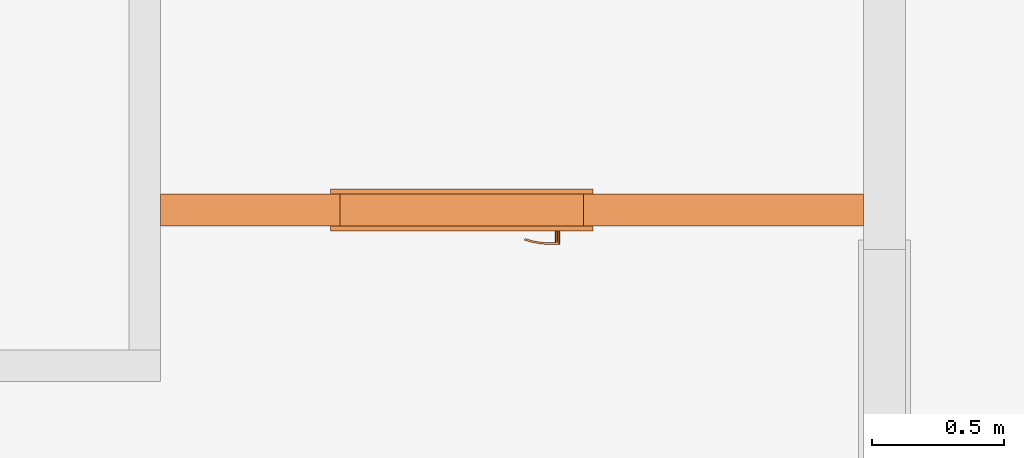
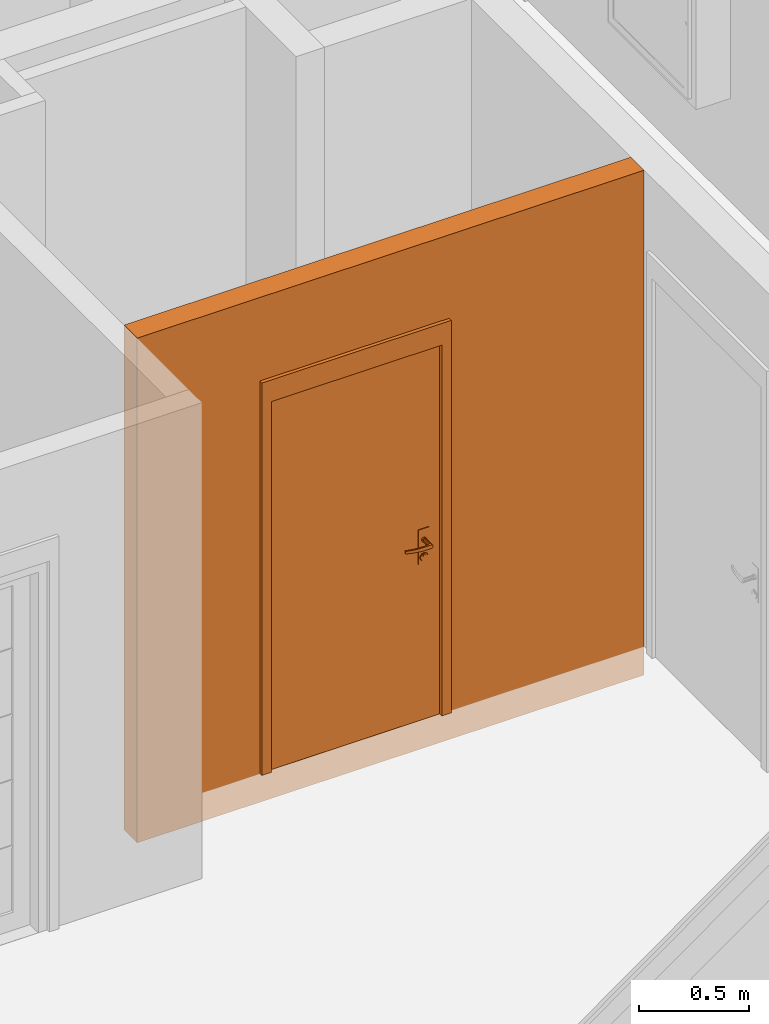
# One storey, part 28 of 64: 2 proxies, 1 opening.
"""IFC2X3 building model written with IfcOpenShell, lengths in millimetres."""

from ifc_helpers import new_model, entity, si_unit, converted_unit, derived_unit, money_unit, direction, frame, origin_with_axes, origin_2d_with_axis, place, context, subcontext, project, spatial, rectangle, extrude, open_shell, faceted_brep, surface_model, source, transform, mapped, material, type_object, element, fill, save


model = new_model("IFC2X3")

# Units and contexts
model_context = context("Model", 3, precision=0.01, world=origin_with_axes(), true_north=direction((0.34421633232, 0.938890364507)))
body_context = subcontext(model_context, "Body", "Model", "MODEL_VIEW")
ifc_project = project(units=[si_unit("LENGTHUNIT", "METRE", prefix="MILLI"), si_unit("AREAUNIT", "SQUARE_METRE"), si_unit("VOLUMEUNIT", "CUBIC_METRE"), converted_unit("PLANEANGLEUNIT", "DEGREE", entity("IfcPlaneAngleMeasure", 0.0174532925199), si_unit("PLANEANGLEUNIT", "RADIAN"), dimensions=[0, 0, 0, 0, 0, 0, 0]), si_unit("SOLIDANGLEUNIT", "STERADIAN"), money_unit("USD"), converted_unit("TIMEUNIT", "Year", entity("IfcTimeMeasure", 31556926.0), si_unit("TIMEUNIT", "SECOND"), dimensions=[0, 0, 1, 0, 0, 0, 0]), si_unit("MASSUNIT", "GRAM", prefix="KILO"), si_unit("THERMODYNAMICTEMPERATUREUNIT", "DEGREE_CELSIUS"), si_unit("LUMINOUSINTENSITYUNIT", "LUMEN"), si_unit("ENERGYUNIT", "JOULE", prefix="MEGA"), derived_unit("THERMALCONDUCTANCEUNIT", [(si_unit("POWERUNIT", "WATT"), 1), (si_unit("LENGTHUNIT", "METRE"), -1), (si_unit("THERMODYNAMICTEMPERATUREUNIT", "KELVIN"), -1)]), derived_unit("SPECIFICHEATCAPACITYUNIT", [(si_unit("ENERGYUNIT", "JOULE"), 1), (si_unit("MASSUNIT", "GRAM", prefix="KILO"), -1), (si_unit("THERMODYNAMICTEMPERATUREUNIT", "KELVIN"), -1)]), derived_unit("MASSDENSITYUNIT", [(si_unit("MASSUNIT", "GRAM", prefix="KILO"), 1), (si_unit("VOLUMEUNIT", "CUBIC_METRE"), -1)])], contexts=[model_context])

# Site, building, storey
site_placement = place(None, origin_with_axes())
site = spatial("IfcSite", under=ifc_project, at=site_placement, Name="USTRONIE MORSKIE", CompositionType="ELEMENT")
building_placement = place(site_placement, origin_with_axes())
building = spatial("IfcBuilding", under=site, at=building_placement, Name="Budynek", CompositionType="ELEMENT")
storey_placement = place(building_placement, frame((0.0, 0.0, 7000.0), z_axis=(0.0, 0.0, 1.0), x_axis=(1.0, 0.0, 0.0)))
storey = spatial("IfcBuildingStorey", under=building, at=storey_placement, Name="PIĘTRO 2", CompositionType="ELEMENT", Elevation=7000.0)

# Proxies, opening
ifc_material = material(Name="Bloczki silikatowe")
building_element_proxy_type_1 = type_object("IfcBuildingElementProxyType", Name="Bloczki silikatowe 120", PredefinedType="NOTDEFINED")
proxy_1_placement = place(storey_placement, frame((413217.920919, 724641.179437, -160.0), z_axis=(0.0, 0.0, 1.0), x_axis=(1.0, 0.0, 0.0)))
proxy_1 = element("IfcBuildingElementProxy", 1, at=proxy_1_placement, inside=storey, type_object=building_element_proxy_type_1, material=ifc_material, Name="SW-04", context=body_context, shape_type="Brep", body=[
    faceted_brep([(2720.0, -59.9999999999, 2800.0), (2720.0, 59.9999999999, 2800.0), (60.0, 59.9999999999, 2800.0), (60.0, -59.9999999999, 2800.0), (2720.0, -59.9999999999, 0.0), (2720.0, 59.9999999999, 0.0), (60.0, 59.9999999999, 0.0), (60.0, -59.9999999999, 0.0)], [[[0, 1, 2, 3]], [[1, 0, 4, 5]], [[1, 5, 6, 2]], [[7, 3, 2, 6]], [[4, 0, 3, 7]], [[5, 4, 7, 6]]]),
])
opening_placement = place(proxy_1_placement, frame((1200.0, -1.13686837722e-10, 160.0), z_axis=(0.0, 0.0, 1.0), x_axis=(1.0, 0.0, 0.0)))
opening = element("IfcOpeningElement", 2, at=opening_placement, cuts=proxy_1, Name="Dw.4", context=body_context, shape_type="SweptSolid", body=[
    extrude(rectangle(XDim=920.0, YDim=2070.0, at=origin_2d_with_axis()), frame((0.0, 120.0, 1035.0), z_axis=(0.0, -1.0, 0.0), x_axis=(-1.0, 0.0, 0.0)), (0.0, 0.0, 1.0), 360.0),
    extrude(rectangle(XDim=994.0, YDim=2177.0, at=origin_2d_with_axis()), frame((0.0, 60.0000000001, 1088.5), z_axis=(0.0, -1.0, 0.0), x_axis=(-1.0, 0.0, 0.0)), (0.0, 0.0, -1.0), 120.0),
    extrude(rectangle(XDim=994.0, YDim=2177.0, at=origin_2d_with_axis()), frame((0.0, -59.9999999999, 1088.5), z_axis=(0.0, 1.0, 0.0), x_axis=(-1.0, 0.0, 0.0)), (0.0, 0.0, -1.0), 120.0),
])
building_element_proxy_type_2 = type_object("IfcBuildingElementProxyType", Name="Drzwi 23", PredefinedType="NOTDEFINED")
shared_shape = source(origin_with_axes(), body_context, "Body", "SurfaceModel", [
    faceted_brep([(-460.0, -115.0, 0.0), (-435.0, -115.0, 0.0), (-435.0, -120.0, 0.0), (-460.0, -120.0, 0.0), (-460.0, -115.0, 2070.0), (-435.0, -115.0, 2045.0), (-435.0, -120.0, 2045.0), (-460.0, -120.0, 2070.0)], [[[0, 1, 2, 3]], [[0, 4, 5, 1]], [[1, 5, 6, 2]], [[3, 2, 6, 7]], [[4, 0, 3, 7]], [[5, 4, 7, 6]]]),
    faceted_brep([(460.0, -115.0, 2070.0), (435.0, -115.0, 2045.0), (435.0, -120.0, 2045.0), (460.0, -120.0, 2070.0), (460.0, -115.0, 0.0), (435.0, -115.0, 0.0), (435.0, -120.0, 0.0), (460.0, -120.0, 0.0)], [[[0, 1, 2, 3]], [[0, 4, 5, 1]], [[1, 5, 6, 2]], [[3, 2, 6, 7]], [[4, 0, 3, 7]], [[5, 4, 7, 6]]]),
    faceted_brep([(-435.0, -115.0, 2045.0), (435.0, -115.0, 2045.0), (435.0, -120.0, 2045.0), (-435.0, -120.0, 2045.0), (-460.0, -115.0, 2070.0), (460.0, -115.0, 2070.0), (460.0, -120.0, 2070.0), (-460.0, -120.0, 2070.0)], [[[0, 1, 2, 3]], [[0, 4, 5, 1]], [[1, 5, 6, 2]], [[3, 2, 6, 7]], [[4, 0, 3, 7]], [[5, 4, 7, 6]]]),
    faceted_brep([(-497.0, -139.0, 0.0), (-497.0, -120.0, 0.0), (-447.0, -120.0, 0.0), (-447.0, -139.0, 0.0), (-497.0, -139.0, 2177.0), (-497.0, -120.0, 2177.0), (-447.0, -120.0, 2057.0), (-447.0, -139.0, 2057.0)], [[[0, 1, 2, 3]], [[4, 5, 1, 0]], [[1, 5, 6, 2]], [[3, 2, 6, 7]], [[0, 3, 7, 4]], [[7, 6, 5, 4]]]),
    faceted_brep([(497.0, -139.0, 2177.0), (497.0, -120.0, 2177.0), (447.0, -120.0, 2057.0), (447.0, -139.0, 2057.0), (497.0, -139.0, 0.0), (497.0, -120.0, 0.0), (447.0, -120.0, 0.0), (447.0, -139.0, 0.0)], [[[0, 1, 2, 3]], [[4, 5, 1, 0]], [[1, 5, 6, 2]], [[3, 2, 6, 7]], [[0, 3, 7, 4]], [[7, 6, 5, 4]]]),
    faceted_brep([(-497.0, -139.0, 2177.0), (-497.0, -120.0, 2177.0), (-447.0, -120.0, 2057.0), (-447.0, -139.0, 2057.0), (497.0, -139.0, 2177.0), (497.0, -120.0, 2177.0), (447.0, -120.0, 2057.0), (447.0, -139.0, 2057.0)], [[[0, 1, 2, 3]], [[4, 5, 1, 0]], [[1, 5, 6, 2]], [[3, 2, 6, 7]], [[0, 3, 7, 4]], [[7, 6, 5, 4]]]),
    faceted_brep([(-497.0, 19.0, 0.0), (-447.0, 19.0, 0.0), (-447.0, 0.0, 0.0), (-497.0, 0.0, 0.0), (-497.0, 19.0, 2177.0), (-447.0, 19.0, 2057.0), (-447.0, 0.0, 2057.0), (-497.0, 0.0, 2177.0)], [[[0, 1, 2, 3]], [[0, 4, 5, 1]], [[1, 5, 6, 2]], [[3, 2, 6, 7]], [[4, 0, 3, 7]], [[5, 4, 7, 6]]]),
    faceted_brep([(497.0, 19.0, 2177.0), (447.0, 19.0, 2057.0), (447.0, 0.0, 2057.0), (497.0, 0.0, 2177.0), (497.0, 19.0, 0.0), (447.0, 19.0, 0.0), (447.0, 0.0, 0.0), (497.0, 0.0, 0.0)], [[[0, 1, 2, 3]], [[0, 4, 5, 1]], [[1, 5, 6, 2]], [[3, 2, 6, 7]], [[4, 0, 3, 7]], [[5, 4, 7, 6]]]),
    faceted_brep([(-497.0, 19.0, 2177.0), (-447.0, 19.0, 2057.0), (-447.0, 0.0, 2057.0), (-497.0, 0.0, 2177.0), (497.0, 19.0, 2177.0), (447.0, 19.0, 2057.0), (447.0, 0.0, 2057.0), (497.0, 0.0, 2177.0)], [[[0, 1, 2, 3]], [[0, 4, 5, 1]], [[1, 5, 6, 2]], [[3, 2, 6, 7]], [[4, 0, 3, 7]], [[5, 4, 7, 6]]]),
    faceted_brep([(-400.0, -40.0, 0.0), (-400.0, -40.0, 2000.0), (-400.0, -115.0, 2000.0), (-400.0, -115.0, 0.0), (-412.0, -40.0, 2000.0), (-412.0, -40.0, 0.0), (-412.0, 0.0, 2000.0), (-460.0, 0.0, 2000.0), (-460.0, -115.0, 2000.0), (-460.0, -115.0, 0.0), (-460.0, 0.0, 0.0), (-412.0, 0.0, 0.0)], [[[0, 1, 2, 3]], [[4, 1, 0, 5]], [[4, 6, 7, 8, 2, 1]], [[3, 2, 8, 9]], [[5, 0, 3, 9, 10, 11]], [[6, 4, 5, 11]], [[6, 11, 10, 7]], [[10, 9, 8, 7]]]),
    faceted_brep([(412.0, -40.0, 2000.0), (400.0, -40.0, 2000.0), (400.0, -115.0, 2000.0), (460.0, -115.0, 2000.0), (460.0, 0.0, 2000.0), (412.0, 0.0, 2000.0), (412.0, -40.0, 0.0), (400.0, -40.0, 0.0), (400.0, -115.0, 0.0), (460.0, -115.0, 0.0), (460.0, 0.0, 0.0), (412.0, 0.0, 0.0)], [[[0, 1, 2, 3, 4, 5]], [[1, 0, 6, 7]], [[1, 7, 8, 2]], [[3, 2, 8, 9]], [[4, 3, 9, 10]], [[11, 5, 4, 10]], [[0, 5, 11, 6]], [[6, 11, 10, 9, 8, 7]]]),
    faceted_brep([(-412.0, 0.0, 2012.0), (-412.0, 0.0, 2000.0), (-460.0, 0.0, 2000.0), (-460.0, 0.0, 2070.0), (460.0, 0.0, 2070.0), (460.0, 0.0, 2000.0), (412.0, 0.0, 2000.0), (412.0, 0.0, 2012.0), (-412.0, -40.0, 2012.0), (-412.0, -40.0, 2000.0), (-400.0, -40.0, 2000.0), (-400.0, -115.0, 2000.0), (-460.0, -115.0, 2000.0), (-460.0, -115.0, 2070.0), (460.0, -115.0, 2070.0), (460.0, -115.0, 2000.0), (412.0, -40.0, 2000.0), (400.0, -115.0, 2000.0), (400.0, -40.0, 2000.0), (412.0, -40.0, 2012.0)], [[[0, 1, 2, 3, 4, 5, 6, 7]], [[1, 0, 8, 9]], [[9, 10, 11, 12, 2, 1]], [[2, 12, 13, 3]], [[3, 13, 14, 4]], [[4, 14, 15, 5]], [[16, 6, 5, 15, 17, 18]], [[7, 6, 16, 19]], [[0, 7, 19, 8]], [[16, 18, 10, 9, 8, 19]], [[10, 18, 17, 11]], [[17, 15, 14, 13, 12, 11]]]),
    faceted_brep([(-390.5, -40.0, 1060.0), (-390.5, -43.0, 1060.0), (-333.5, -43.0, 1060.0), (-333.5, -40.0, 1060.0), (-390.5, -40.0, 870.0), (-390.5, -43.0, 870.0), (-333.5, -43.0, 870.0), (-333.5, -40.0, 870.0)], [[[0, 1, 2, 3]], [[4, 5, 1, 0]], [[1, 5, 6, 2]], [[3, 2, 6, 7]], [[0, 3, 7, 4]], [[7, 6, 5, 4]]]),
    faceted_brep([(-362.0, -104.0, 990.0), (-362.0, -111.0, 990.0), (-367.0, -111.0, 991.339745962), (-367.0, -104.0, 991.339745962), (-337.0, -104.0, 990.0), (-337.0, -111.0, 990.0), (-337.0, -111.0, 1010.0), (-362.0, -111.0, 1010.0), (-367.0, -111.0, 1008.66025404), (-370.660254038, -111.0, 1005.0), (-372.0, -111.0, 1000.0), (-370.660254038, -111.0, 995.0), (-370.660254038, -104.0, 995.0), (-372.0, -104.0, 1000.0), (-370.660254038, -104.0, 1005.0), (-367.0, -104.0, 1008.66025404), (-362.0, -104.0, 1010.0), (-337.0, -104.0, 1010.0)], [[[0, 1, 2, 3]], [[4, 5, 1, 0]], [[1, 5, 6, 7, 8, 9, 10, 11, 2]], [[3, 2, 11, 12]], [[0, 3, 12, 13, 14, 15, 16, 17, 4]], [[17, 6, 5, 4]], [[16, 7, 6, 17]], [[15, 8, 7, 16]], [[14, 9, 8, 15]], [[13, 10, 9, 14]], [[12, 11, 10, 13]]]),
    surface_model("IfcShellBasedSurfaceModel", [(-337.0, -104.0, 1010.0), (-323.596090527, -111.0, 1009.60730092), (-323.901717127, -104.0, 1009.60730092), (-337.0, -111.0, 1010.0), (-296.890283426, -108.663544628, 1008.82190275), (-323.901717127, -104.0, 990.392699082), (-337.0, -104.0, 990.0), (-337.0, -111.0, 990.0), (-323.596090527, -111.0, 990.392699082), (-296.890283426, -108.663544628, 991.178097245), (-297.804837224, -101.716818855, 1008.82190275), (-297.804837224, -101.716818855, 991.178097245), (-270.489735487, -104.008415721, 991.963495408), (-270.489735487, -104.008415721, 1008.03650459), (-272.006256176, -97.1678329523, 1008.03650459), (-272.006256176, -97.1678329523, 991.963495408), (-244.59537082, -97.0700416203, 992.748893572), (-244.59537082, -97.0700416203, 1007.25110643), (-246.702316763, -90.3876628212, 1007.25110643), (-246.702316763, -90.3876628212, 992.748893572), (-236.538795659, -94.1376880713, 993.0), (-236.538795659, -94.1376880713, 1007.0), (-238.829442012, -87.5221707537, 1007.0), (-238.829442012, -87.5221707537, 993.0)], [open_shell([[[0, 1, 2]], [[0, 3, 1]], [[2, 1, 4]], [[0, 2, 5, 6]], [[3, 7, 8, 1]], [[1, 8, 9, 4]], [[2, 4, 10]], [[2, 10, 11, 5]], [[5, 7, 6]], [[5, 8, 7]], [[11, 9, 8]], [[4, 9, 12, 13]], [[10, 4, 13]], [[10, 14, 15, 11]], [[11, 8, 5]], [[15, 9, 11]], [[15, 12, 9]], [[13, 12, 16, 17]], [[10, 13, 14]], [[14, 18, 19, 15]], [[19, 12, 15]], [[19, 16, 12]], [[17, 16, 20, 21]], [[14, 13, 17]], [[14, 17, 18]], [[18, 22, 23, 19]], [[23, 16, 19]], [[23, 20, 16]], [[22, 21, 20, 23]], [[18, 17, 21]], [[18, 21, 22]]])]),
    faceted_brep([(-351.607695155, -53.0, 994.0), (-350.741669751, -43.0, 993.5), (-349.0, -43.0, 1000.0), (-350.0, -53.0, 1000.0), (-356.0, -53.0, 989.607695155), (-355.5, -43.0, 988.741669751), (-362.0, -43.0, 987.0), (-368.5, -43.0, 988.741669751), (-373.258330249, -43.0, 993.5), (-375.0, -43.0, 1000.0), (-373.258330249, -43.0, 1006.5), (-368.5, -43.0, 1011.25833025), (-362.0, -43.0, 1013.0), (-355.5, -43.0, 1011.25833025), (-350.741669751, -43.0, 1006.5), (-351.607695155, -53.0, 1006.0), (-356.0, -53.0, 1010.39230485), (-362.0, -53.0, 1012.0), (-368.0, -53.0, 1010.39230485), (-372.392304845, -53.0, 1006.0), (-374.0, -53.0, 1000.0), (-372.392304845, -53.0, 994.0), (-368.0, -53.0, 989.607695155), (-362.0, -53.0, 988.0)], [[[0, 1, 2, 3]], [[4, 5, 1, 0]], [[2, 1, 5, 6, 7, 8, 9, 10, 11, 12, 13, 14]], [[3, 2, 14, 15]], [[3, 15, 16, 17, 18, 19, 20, 21, 22, 23, 4, 0]], [[23, 6, 5, 4]], [[22, 7, 6, 23]], [[21, 8, 7, 22]], [[20, 9, 8, 21]], [[19, 10, 9, 20]], [[18, 11, 10, 19]], [[17, 12, 11, 18]], [[16, 13, 12, 17]], [[15, 14, 13, 16]]]),
    faceted_brep([(-344.679491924, -47.0, 895.0), (-342.947441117, -43.0, 894.0), (-340.0, -43.0, 905.0), (-342.0, -47.0, 905.0), (-352.0, -47.0, 887.679491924), (-351.0, -43.0, 885.947441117), (-362.0, -43.0, 883.0), (-373.0, -43.0, 885.947441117), (-381.052558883, -43.0, 894.0), (-384.0, -43.0, 905.0), (-381.052558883, -43.0, 916.0), (-373.0, -43.0, 924.052558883), (-362.0, -43.0, 927.0), (-351.0, -43.0, 924.052558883), (-342.947441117, -43.0, 916.0), (-344.679491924, -47.0, 915.0), (-352.0, -47.0, 922.320508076), (-362.0, -47.0, 925.0), (-372.0, -47.0, 922.320508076), (-379.320508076, -47.0, 915.0), (-382.0, -47.0, 905.0), (-379.320508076, -47.0, 895.0), (-372.0, -47.0, 887.679491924), (-362.0, -47.0, 885.0)], [[[0, 1, 2, 3]], [[4, 5, 1, 0]], [[2, 1, 5, 6, 7, 8, 9, 10, 11, 12, 13, 14]], [[3, 2, 14, 15]], [[3, 15, 16, 17, 18, 19, 20, 21, 22, 23, 4, 0]], [[23, 6, 5, 4]], [[22, 7, 6, 23]], [[21, 8, 7, 22]], [[20, 9, 8, 21]], [[19, 10, 9, 20]], [[18, 11, 10, 19]], [[17, 12, 11, 18]], [[16, 13, 12, 17]], [[15, 14, 13, 16]]]),
    faceted_brep([(-357.050252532, -49.0, 909.050252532), (-356.343145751, -47.0, 908.343145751), (-354.0, -47.0, 914.0), (-355.0, -49.0, 914.0), (-362.0, -49.0, 907.0), (-362.0, -47.0, 906.0), (-367.656854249, -47.0, 908.343145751), (-370.0, -47.0, 914.0), (-367.656854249, -47.0, 919.656854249), (-362.0, -47.0, 922.0), (-356.343145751, -47.0, 919.656854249), (-357.050252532, -49.0, 918.949747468), (-362.0, -49.0, 921.0), (-366.949747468, -49.0, 918.949747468), (-369.0, -49.0, 914.0), (-366.949747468, -49.0, 909.050252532)], [[[0, 1, 2, 3]], [[4, 5, 1, 0]], [[2, 1, 5, 6, 7, 8, 9, 10]], [[3, 2, 10, 11]], [[3, 11, 12, 13, 14, 15, 4, 0]], [[15, 6, 5, 4]], [[14, 7, 6, 15]], [[13, 8, 7, 14]], [[12, 9, 8, 13]], [[11, 10, 9, 12]]]),
    faceted_brep([(-362.0, -53.0, 1010.0), (-362.0, -104.0, 1010.0), (-357.0, -104.0, 1008.66025404), (-357.0, -53.0, 1008.66025404), (-367.0, -53.0, 1008.66025404), (-367.0, -104.0, 1008.66025404), (-370.660254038, -104.0, 1005.0), (-372.0, -104.0, 1000.0), (-370.660254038, -104.0, 995.0), (-367.0, -104.0, 991.339745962), (-362.0, -104.0, 990.0), (-357.0, -104.0, 991.339745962), (-353.339745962, -104.0, 995.0), (-352.0, -104.0, 1000.0), (-353.339745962, -104.0, 1005.0), (-353.339745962, -53.0, 1005.0), (-352.0, -53.0, 1000.0), (-353.339745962, -53.0, 995.0), (-357.0, -53.0, 991.339745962), (-362.0, -53.0, 990.0), (-367.0, -53.0, 991.339745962), (-370.660254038, -53.0, 995.0), (-372.0, -53.0, 1000.0), (-370.660254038, -53.0, 1005.0)], [[[0, 1, 2, 3]], [[4, 5, 1, 0]], [[1, 5, 6, 7, 8, 9, 10, 11, 12, 13, 14, 2]], [[3, 2, 14, 15]], [[0, 3, 15, 16, 17, 18, 19, 20, 21, 22, 23, 4]], [[23, 6, 5, 4]], [[22, 7, 6, 23]], [[21, 8, 7, 22]], [[20, 9, 8, 21]], [[19, 10, 9, 20]], [[18, 11, 10, 19]], [[17, 12, 11, 18]], [[16, 13, 12, 17]], [[15, 14, 13, 16]]]),
    faceted_brep([(-390.5, 0.0, 1060.0), (-333.5, 0.0, 1060.0), (-333.5, 3.0, 1060.0), (-390.5, 3.0, 1060.0), (-390.5, 0.0, 870.0), (-333.5, 0.0, 870.0), (-333.5, 3.0, 870.0), (-390.5, 3.0, 870.0)], [[[0, 1, 2, 3]], [[0, 4, 5, 1]], [[1, 5, 6, 2]], [[3, 2, 6, 7]], [[4, 0, 3, 7]], [[5, 4, 7, 6]]]),
    faceted_brep([(-362.0, 64.0, 990.0), (-367.0, 64.0, 991.339745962), (-367.0, 71.0, 991.339745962), (-362.0, 71.0, 990.0), (-337.0, 64.0, 990.0), (-337.0, 64.0, 1010.0), (-362.0, 64.0, 1010.0), (-367.0, 64.0, 1008.66025404), (-370.660254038, 64.0, 1005.0), (-372.0, 64.0, 1000.0), (-370.660254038, 64.0, 995.0), (-370.660254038, 71.0, 995.0), (-372.0, 71.0, 1000.0), (-370.660254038, 71.0, 1005.0), (-367.0, 71.0, 1008.66025404), (-362.0, 71.0, 1010.0), (-337.0, 71.0, 1010.0), (-337.0, 71.0, 990.0)], [[[0, 1, 2, 3]], [[0, 4, 5, 6, 7, 8, 9, 10, 1]], [[1, 10, 11, 2]], [[3, 2, 11, 12, 13, 14, 15, 16, 17]], [[4, 0, 3, 17]], [[5, 4, 17, 16]], [[6, 5, 16, 15]], [[7, 6, 15, 14]], [[8, 7, 14, 13]], [[9, 8, 13, 12]], [[10, 9, 12, 11]]]),
    surface_model("IfcShellBasedSurfaceModel", [(-337.0, 64.0, 1010.0), (-323.901717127, 64.0, 1009.60730092), (-323.596090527, 71.0, 1009.60730092), (-337.0, 64.0, 990.0), (-323.901717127, 64.0, 990.392699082), (-296.890283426, 68.6635446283, 1008.82190275), (-337.0, 71.0, 1010.0), (-337.0, 71.0, 990.0), (-297.804837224, 61.716818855, 991.178097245), (-297.804837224, 61.716818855, 1008.82190275), (-296.890283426, 68.6635446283, 991.178097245), (-323.596090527, 71.0, 990.392699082), (-272.006256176, 57.1678329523, 991.963495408), (-272.006256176, 57.1678329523, 1008.03650459), (-270.489735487, 64.0084157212, 1008.03650459), (-270.489735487, 64.0084157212, 991.963495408), (-246.702316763, 50.3876628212, 992.748893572), (-246.702316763, 50.3876628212, 1007.25110643), (-244.59537082, 57.0700416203, 1007.25110643), (-244.59537082, 57.0700416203, 992.748893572), (-238.829442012, 47.5221707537, 993.0), (-238.829442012, 47.5221707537, 1007.0), (-236.538795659, 54.1376880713, 1007.0), (-236.538795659, 54.1376880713, 993.0)], [open_shell([[[0, 1, 2]], [[0, 3, 4, 1]], [[1, 5, 2]], [[0, 2, 6]], [[4, 3, 7]], [[1, 4, 8, 9]], [[1, 9, 5]], [[2, 5, 10, 11]], [[6, 2, 11, 7]], [[4, 7, 11]], [[8, 4, 11]], [[9, 8, 12, 13]], [[9, 14, 5]], [[5, 14, 15, 10]], [[8, 11, 10]], [[12, 8, 10]], [[13, 12, 16, 17]], [[9, 13, 14]], [[14, 18, 19, 15]], [[12, 10, 15]], [[16, 12, 15]], [[17, 16, 20, 21]], [[13, 17, 18]], [[13, 18, 14]], [[18, 22, 23, 19]], [[16, 15, 19]], [[20, 16, 19]], [[21, 20, 23, 22]], [[17, 21, 22]], [[17, 22, 18]], [[20, 19, 23]]])]),
    faceted_brep([(-351.607695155, 13.0, 994.0), (-350.0, 13.0, 1000.0), (-349.0, 3.0, 1000.0), (-350.741669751, 3.0, 993.5), (-356.0, 13.0, 989.607695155), (-362.0, 13.0, 988.0), (-368.0, 13.0, 989.607695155), (-372.392304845, 13.0, 994.0), (-374.0, 13.0, 1000.0), (-372.392304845, 13.0, 1006.0), (-368.0, 13.0, 1010.39230485), (-362.0, 13.0, 1012.0), (-356.0, 13.0, 1010.39230485), (-351.607695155, 13.0, 1006.0), (-350.741669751, 3.0, 1006.5), (-355.5, 3.0, 1011.25833025), (-362.0, 3.0, 1013.0), (-368.5, 3.0, 1011.25833025), (-373.258330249, 3.0, 1006.5), (-375.0, 3.0, 1000.0), (-373.258330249, 3.0, 993.5), (-368.5, 3.0, 988.741669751), (-362.0, 3.0, 987.0), (-355.5, 3.0, 988.741669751)], [[[0, 1, 2, 3]], [[1, 0, 4, 5, 6, 7, 8, 9, 10, 11, 12, 13]], [[1, 13, 14, 2]], [[2, 14, 15, 16, 17, 18, 19, 20, 21, 22, 23, 3]], [[4, 0, 3, 23]], [[5, 4, 23, 22]], [[6, 5, 22, 21]], [[7, 6, 21, 20]], [[8, 7, 20, 19]], [[9, 8, 19, 18]], [[10, 9, 18, 17]], [[11, 10, 17, 16]], [[12, 11, 16, 15]], [[13, 12, 15, 14]]]),
    faceted_brep([(-344.679491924, 7.0, 895.0), (-342.0, 7.0, 905.0), (-340.0, 3.0, 905.0), (-342.947441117, 3.0, 894.0), (-352.0, 7.0, 887.679491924), (-362.0, 7.0, 885.0), (-372.0, 7.0, 887.679491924), (-379.320508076, 7.0, 895.0), (-382.0, 7.0, 905.0), (-379.320508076, 7.0, 915.0), (-372.0, 7.0, 922.320508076), (-362.0, 7.0, 925.0), (-352.0, 7.0, 922.320508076), (-344.679491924, 7.0, 915.0), (-342.947441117, 3.0, 916.0), (-351.0, 3.0, 924.052558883), (-362.0, 3.0, 927.0), (-373.0, 3.0, 924.052558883), (-381.052558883, 3.0, 916.0), (-384.0, 3.0, 905.0), (-381.052558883, 3.0, 894.0), (-373.0, 3.0, 885.947441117), (-362.0, 3.0, 883.0), (-351.0, 3.0, 885.947441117)], [[[0, 1, 2, 3]], [[1, 0, 4, 5, 6, 7, 8, 9, 10, 11, 12, 13]], [[1, 13, 14, 2]], [[2, 14, 15, 16, 17, 18, 19, 20, 21, 22, 23, 3]], [[4, 0, 3, 23]], [[5, 4, 23, 22]], [[6, 5, 22, 21]], [[7, 6, 21, 20]], [[8, 7, 20, 19]], [[9, 8, 19, 18]], [[10, 9, 18, 17]], [[11, 10, 17, 16]], [[12, 11, 16, 15]], [[13, 12, 15, 14]]]),
    faceted_brep([(-357.050252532, 9.0, 909.050252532), (-355.0, 9.0, 914.0), (-354.0, 7.0, 914.0), (-356.343145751, 7.0, 908.343145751), (-362.0, 9.0, 907.0), (-366.949747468, 9.0, 909.050252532), (-369.0, 9.0, 914.0), (-366.949747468, 9.0, 918.949747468), (-362.0, 9.0, 921.0), (-357.050252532, 9.0, 918.949747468), (-356.343145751, 7.0, 919.656854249), (-362.0, 7.0, 922.0), (-367.656854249, 7.0, 919.656854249), (-370.0, 7.0, 914.0), (-367.656854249, 7.0, 908.343145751), (-362.0, 7.0, 906.0)], [[[0, 1, 2, 3]], [[1, 0, 4, 5, 6, 7, 8, 9]], [[1, 9, 10, 2]], [[2, 10, 11, 12, 13, 14, 15, 3]], [[4, 0, 3, 15]], [[5, 4, 15, 14]], [[6, 5, 14, 13]], [[7, 6, 13, 12]], [[8, 7, 12, 11]], [[9, 8, 11, 10]]]),
    faceted_brep([(-362.0, 13.0, 1010.0), (-357.0, 13.0, 1008.66025404), (-357.0, 64.0, 1008.66025404), (-362.0, 64.0, 1010.0), (-367.0, 13.0, 1008.66025404), (-370.660254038, 13.0, 1005.0), (-372.0, 13.0, 1000.0), (-370.660254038, 13.0, 995.0), (-367.0, 13.0, 991.339745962), (-362.0, 13.0, 990.0), (-357.0, 13.0, 991.339745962), (-353.339745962, 13.0, 995.0), (-352.0, 13.0, 1000.0), (-353.339745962, 13.0, 1005.0), (-353.339745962, 64.0, 1005.0), (-352.0, 64.0, 1000.0), (-353.339745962, 64.0, 995.0), (-357.0, 64.0, 991.339745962), (-362.0, 64.0, 990.0), (-367.0, 64.0, 991.339745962), (-370.660254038, 64.0, 995.0), (-372.0, 64.0, 1000.0), (-370.660254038, 64.0, 1005.0), (-367.0, 64.0, 1008.66025404)], [[[0, 1, 2, 3]], [[0, 4, 5, 6, 7, 8, 9, 10, 11, 12, 13, 1]], [[1, 13, 14, 2]], [[3, 2, 14, 15, 16, 17, 18, 19, 20, 21, 22, 23]], [[4, 0, 3, 23]], [[5, 4, 23, 22]], [[6, 5, 22, 21]], [[7, 6, 21, 20]], [[8, 7, 20, 19]], [[9, 8, 19, 18]], [[10, 9, 18, 17]], [[11, 10, 17, 16]], [[12, 11, 16, 15]], [[13, 12, 15, 14]]]),
    faceted_brep([(412.0, 0.0, 0.0), (412.0, -40.0, 0.0), (-412.0, -40.0, 0.0), (-412.0, 0.0, 0.0), (412.0, 0.0, 2012.0), (412.0, -40.0, 2012.0), (-412.0, -40.0, 2012.0), (-412.0, 0.0, 2012.0)], [[[0, 1, 2, 3]], [[4, 5, 1, 0]], [[1, 5, 6, 2]], [[3, 2, 6, 7]], [[0, 3, 7, 4]], [[7, 6, 5, 4]]]),
])
proxy_2_placement = place(opening_placement, frame((400.0, 0.0, 0.0), z_axis=(0.0, 0.0, 1.0), x_axis=(-1.0, 0.0, 0.0)))
proxy_2 = element("IfcBuildingElementProxy", 3, at=proxy_2_placement, inside=storey, type_object=building_element_proxy_type_2, Name="Dw.4", context=body_context, shape_type="MappedRepresentation", body=[
    mapped(shared_shape, transform((400.0, 59.9999999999, 0.0))),
])
fill(opening, proxy_2)

save(model, "model.ifc")
